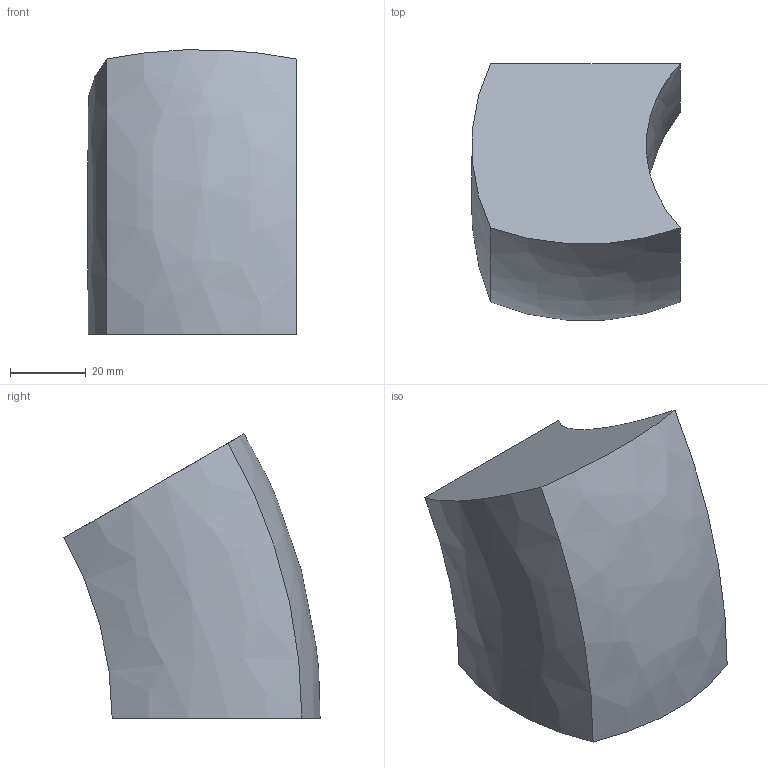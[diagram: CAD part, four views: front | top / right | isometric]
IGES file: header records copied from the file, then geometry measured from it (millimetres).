
Global section: file name: G_Ex_06_6; native system: AutoCAD 2016 - Español (Spanish),; preprocessor: Autodesk Translation Framework DWG producer (atf_dwg_producer); organization: unknown; date: 20200525.154416; units: millimetre
Bounding box: 55 x 67.55 x 74.91 mm (x, y, z)
Volume: 161236.3 mm3; surface area: 18160.7 mm2
Topology: 1 solids, 1 shells, 6 faces, 12 edges, 8 vertices
Faces by surface type: bspline 6
